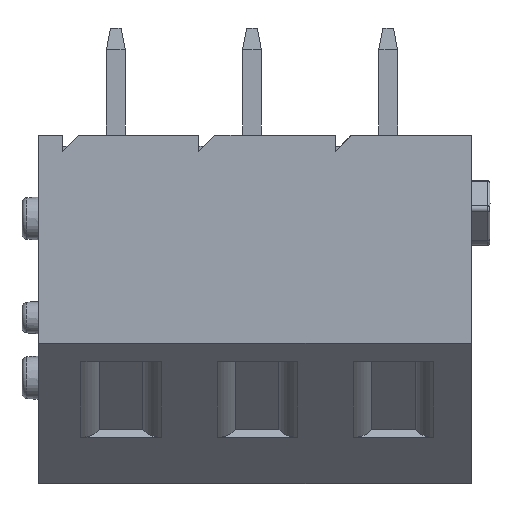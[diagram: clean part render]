
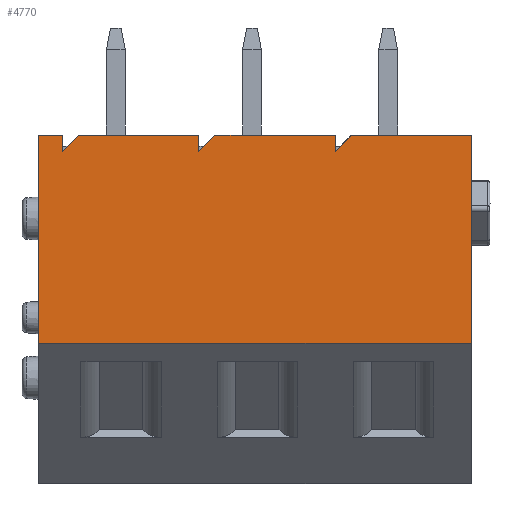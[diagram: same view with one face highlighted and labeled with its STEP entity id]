
A CAD part, left-side view. The second image highlights one B-rep face of the part: STEP entity #4770.
In plain terms, the highlighted planar face has unit normal (-1, 0, 0).
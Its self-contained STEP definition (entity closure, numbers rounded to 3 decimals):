
#575=DIRECTION('',(0.,0.,-1.));
#576=VECTOR('',#575,0.6);
#577=CARTESIAN_POINT('',(0.,-9.46,0.));
#578=LINE('',#577,#576);
#579=DIRECTION('',(0.,-0.707,0.707));
#580=VECTOR('',#579,0.849);
#581=CARTESIAN_POINT('',(0.,-9.46,-0.6));
#582=LINE('',#581,#580);
#583=DIRECTION('',(0.,0.,-1.));
#584=VECTOR('',#583,7.75);
#585=CARTESIAN_POINT('',(0.,-14.54,0.));
#586=LINE('',#585,#584);
#587=DIRECTION('',(0.,-1.,0.));
#588=VECTOR('',#587,0.9);
#589=CARTESIAN_POINT('',(0.,1.6,0.));
#590=LINE('',#589,#588);
#591=DIRECTION('',(0.,0.,-1.));
#592=VECTOR('',#591,0.6);
#593=CARTESIAN_POINT('',(0.,0.7,0.));
#594=LINE('',#593,#592);
#595=DIRECTION('',(0.,-0.707,0.707));
#596=VECTOR('',#595,0.849);
#597=CARTESIAN_POINT('',(0.,0.7,-0.6));
#598=LINE('',#597,#596);
#599=DIRECTION('',(0.,0.,-1.));
#600=VECTOR('',#599,0.6);
#601=CARTESIAN_POINT('',(0.,-4.38,0.));
#602=LINE('',#601,#600);
#603=DIRECTION('',(0.,-0.707,0.707));
#604=VECTOR('',#603,0.849);
#605=CARTESIAN_POINT('',(0.,-4.38,-0.6));
#606=LINE('',#605,#604);
#611=DIRECTION('',(0.,1.,0.));
#612=VECTOR('',#611,4.48);
#613=CARTESIAN_POINT('',(0.,-14.54,0.));
#614=LINE('',#613,#612);
#615=DIRECTION('',(0.,-1.,0.));
#616=VECTOR('',#615,16.14);
#617=CARTESIAN_POINT('',(0.,1.6,-7.75));
#618=LINE('',#617,#616);
#703=DIRECTION('',(0.,0.,-1.));
#704=VECTOR('',#703,7.75);
#705=CARTESIAN_POINT('',(0.,1.6,0.));
#706=LINE('',#705,#704);
#1538=DIRECTION('',(0.,1.,0.));
#1539=VECTOR('',#1538,4.48);
#1540=CARTESIAN_POINT('',(0.,-4.38,0.));
#1541=LINE('',#1540,#1539);
#1546=DIRECTION('',(0.,1.,0.));
#1547=VECTOR('',#1546,4.48);
#1548=CARTESIAN_POINT('',(0.,-9.46,0.));
#1549=LINE('',#1548,#1547);
#3007=CARTESIAN_POINT('',(0.,0.7,0.));
#3008=CARTESIAN_POINT('',(0.,0.7,-0.6));
#3009=VERTEX_POINT('',#3007);
#3010=VERTEX_POINT('',#3008);
#3134=CARTESIAN_POINT('',(0.,-14.54,-7.75));
#3135=VERTEX_POINT('',#3134);
#3136=CARTESIAN_POINT('',(0.,-14.54,0.));
#3137=VERTEX_POINT('',#3136);
#3192=CARTESIAN_POINT('',(0.,-10.06,0.));
#3193=VERTEX_POINT('',#3192);
#3194=CARTESIAN_POINT('',(0.,-9.46,-0.6));
#3195=VERTEX_POINT('',#3194);
#3196=CARTESIAN_POINT('',(0.,-9.46,0.));
#3197=VERTEX_POINT('',#3196);
#3275=CARTESIAN_POINT('',(0.,1.6,-7.75));
#3276=VERTEX_POINT('',#3275);
#3297=CARTESIAN_POINT('',(0.,1.6,0.));
#3298=VERTEX_POINT('',#3297);
#3299=CARTESIAN_POINT('',(0.,0.1,0.));
#3300=VERTEX_POINT('',#3299);
#3301=CARTESIAN_POINT('',(0.,-4.38,0.));
#3302=VERTEX_POINT('',#3301);
#3303=CARTESIAN_POINT('',(0.,-4.38,-0.6));
#3304=VERTEX_POINT('',#3303);
#3305=CARTESIAN_POINT('',(0.,-4.98,0.));
#3306=VERTEX_POINT('',#3305);
#4743=CARTESIAN_POINT('',(0.,0.7,-7.75));
#4744=DIRECTION('',(-1.,0.,0.));
#4745=DIRECTION('',(0.,0.,1.));
#4746=AXIS2_PLACEMENT_3D('',#4743,#4744,#4745);
#4747=PLANE('',#4746);
#4748=ORIENTED_EDGE('',*,*,#4710,.T.);
#4749=ORIENTED_EDGE('',*,*,#4222,.T.);
#4751=ORIENTED_EDGE('',*,*,#4750,.F.);
#4752=ORIENTED_EDGE('',*,*,#4132,.T.);
#4754=ORIENTED_EDGE('',*,*,#4753,.F.);
#4756=ORIENTED_EDGE('',*,*,#4755,.F.);
#4758=ORIENTED_EDGE('',*,*,#4757,.T.);
#4759=ORIENTED_EDGE('',*,*,#3928,.T.);
#4761=ORIENTED_EDGE('',*,*,#4760,.T.);
#4763=ORIENTED_EDGE('',*,*,#4762,.F.);
#4764=ORIENTED_EDGE('',*,*,#4503,.T.);
#4765=ORIENTED_EDGE('',*,*,#4550,.T.);
#4767=ORIENTED_EDGE('',*,*,#4766,.F.);
#4768=EDGE_LOOP('',(#4748,#4749,#4751,#4752,#4754,#4756,#4758,#4759,#4761,#4763,
#4764,#4765,#4767));
#4769=FACE_OUTER_BOUND('',#4768,.F.);
#4770=ADVANCED_FACE('',(#4769),#4747,.T.);
#3928=EDGE_CURVE('',#3009,#3010,#594,.T.);
#4132=EDGE_CURVE('',#3137,#3135,#586,.T.);
#4222=EDGE_CURVE('',#3195,#3193,#582,.T.);
#4503=EDGE_CURVE('',#3302,#3304,#602,.T.);
#4550=EDGE_CURVE('',#3304,#3306,#606,.T.);
#4710=EDGE_CURVE('',#3197,#3195,#578,.T.);
#4750=EDGE_CURVE('',#3137,#3193,#614,.T.);
#4753=EDGE_CURVE('',#3276,#3135,#618,.T.);
#4755=EDGE_CURVE('',#3298,#3276,#706,.T.);
#4757=EDGE_CURVE('',#3298,#3009,#590,.T.);
#4760=EDGE_CURVE('',#3010,#3300,#598,.T.);
#4762=EDGE_CURVE('',#3302,#3300,#1541,.T.);
#4766=EDGE_CURVE('',#3197,#3306,#1549,.T.);
